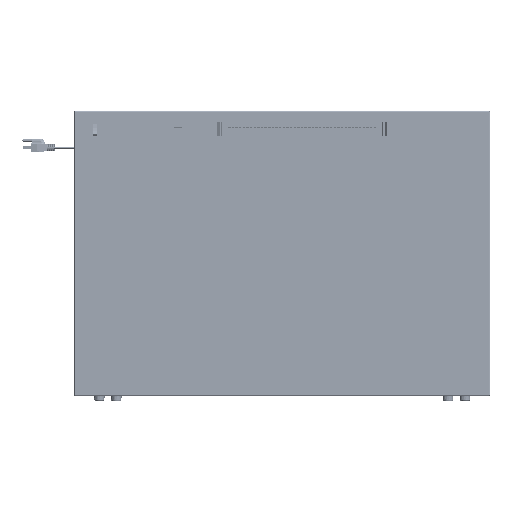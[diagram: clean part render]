
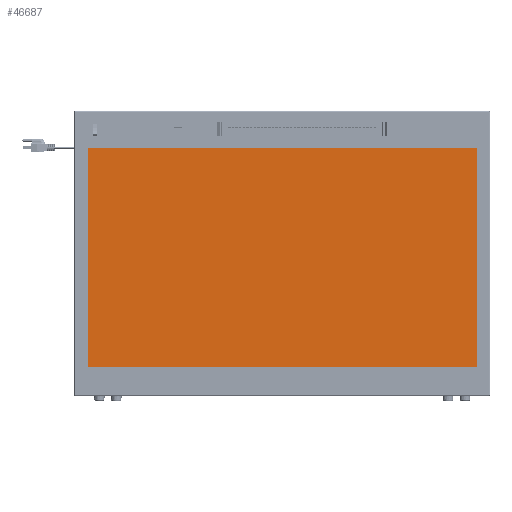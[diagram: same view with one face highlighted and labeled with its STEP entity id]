
A CAD part, top view. The second image highlights one B-rep face of the part: STEP entity #46687.
In plain terms, the highlighted planar face has unit normal (0, 0, 1).
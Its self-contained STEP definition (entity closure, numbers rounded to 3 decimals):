
#6469=DIRECTION('',(1.,0.,0.));
#6470=VECTOR('',#6469,802.);
#6471=CARTESIAN_POINT('',(-401.,510.3,147.791));
#6472=LINE('',#6471,#6470);
#6477=DIRECTION('',(0.,-1.,0.));
#6478=VECTOR('',#6477,452.);
#6479=CARTESIAN_POINT('',(401.,510.3,147.791));
#6480=LINE('',#6479,#6478);
#6489=DIRECTION('',(-1.,0.,0.));
#6490=VECTOR('',#6489,802.);
#6491=CARTESIAN_POINT('',(401.,58.3,147.791));
#6492=LINE('',#6491,#6490);
#6501=DIRECTION('',(0.,1.,0.));
#6502=VECTOR('',#6501,452.);
#6503=CARTESIAN_POINT('',(-401.,58.3,147.791));
#6504=LINE('',#6503,#6502);
#35985=CARTESIAN_POINT('',(-401.,510.3,147.791));
#35986=CARTESIAN_POINT('',(401.,510.3,147.791));
#35987=VERTEX_POINT('',#35985);
#35988=VERTEX_POINT('',#35986);
#35989=CARTESIAN_POINT('',(401.,58.3,147.791));
#35990=VERTEX_POINT('',#35989);
#35991=CARTESIAN_POINT('',(-401.,58.3,147.791));
#35992=VERTEX_POINT('',#35991);
#46673=CARTESIAN_POINT('',(0.,263.8,147.791));
#46674=DIRECTION('',(0.,0.,1.));
#46675=DIRECTION('',(1.,0.,0.));
#46676=AXIS2_PLACEMENT_3D('',#46673,#46674,#46675);
#46677=PLANE('',#46676);
#46678=ORIENTED_EDGE('',*,*,#46663,.T.);
#46680=ORIENTED_EDGE('',*,*,#46679,.T.);
#46682=ORIENTED_EDGE('',*,*,#46681,.T.);
#46684=ORIENTED_EDGE('',*,*,#46683,.T.);
#46685=EDGE_LOOP('',(#46678,#46680,#46682,#46684));
#46686=FACE_OUTER_BOUND('',#46685,.F.);
#46687=ADVANCED_FACE('',(#46686),#46677,.T.);
#46663=EDGE_CURVE('',#35987,#35988,#6472,.T.);
#46679=EDGE_CURVE('',#35988,#35990,#6480,.T.);
#46681=EDGE_CURVE('',#35990,#35992,#6492,.T.);
#46683=EDGE_CURVE('',#35992,#35987,#6504,.T.);
